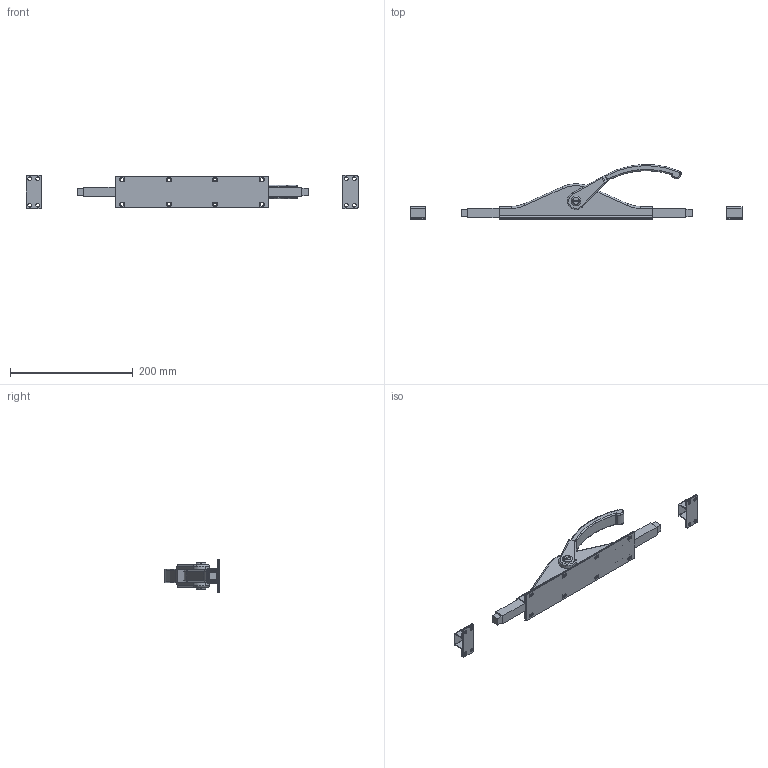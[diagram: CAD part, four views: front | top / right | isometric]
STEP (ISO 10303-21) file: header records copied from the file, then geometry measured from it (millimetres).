
FILE_DESCRIPTION (( 'STEP AP203' ), '1' );
FILE_NAME ('SK1-387-20180326.STEP', '2018-10-29T06:42:54', ( 'admin' ), ( 'Microsoft' ), 'SwSTEP 2.0', 'SolidWorks 2015', '' );
FILE_SCHEMA (( 'CONFIG_CONTROL_DESIGN' ));
Length unit declared in the file: millimetre
Products named in the file (11): SK1-387-20180326蜇璃7; SK1-387-20180326蜇璃1; SK1-387-20180326; SK1-387-20180326蜇璃2; SK1-387-20180326蜇璃3; SK1-387-20180326蜇璃4; SK1-387-20180326蜇璃5; SK1-387-20180326蜇璃6; SK1-387-20180326參忒; slotted pan head tapping screws gb_GB_CROSS_SCREWS_TYPE131 ST8X19 C-N
Assembly tree (14 placements, depth 2):
  SK1-387-20180326
    SK1-387-20180326
    SK1-387-20180326蜇璃1
    SK1-387-20180326蜇璃2
    SK1-387-20180326蜇璃3
    SK1-387-20180326蜇璃4
    SK1-387-20180326蜇璃5  x2
    SK1-387-20180326蜇璃6  x2
    SK1-387-20180326參忒
    slotted pan head tapping screws gb_GB_CROSS_SCREWS_TYPE131 ST8X19 C-N  x2
    SK1-387-20180326蜇璃7  x2
Bounding box: 540 x 89.3 x 54 mm (x, y, z)
Volume: 199870.6 mm3; surface area: 153825.9 mm2
Topology: 24 solids, 24 shells, 555 faces, 1342 edges, 829 vertices
Faces by surface type: cylinder 244, plane 232, torus 55, bspline 12, cone 8, sphere 4
Entity records: 14579 total; most frequent: CARTESIAN_POINT 2697, DIRECTION 2370, ORIENTED_EDGE 2096, EDGE_CURVE 1048, AXIS2_PLACEMENT_3D 911, VERTEX_POINT 658, LINE 548, VECTOR 548
